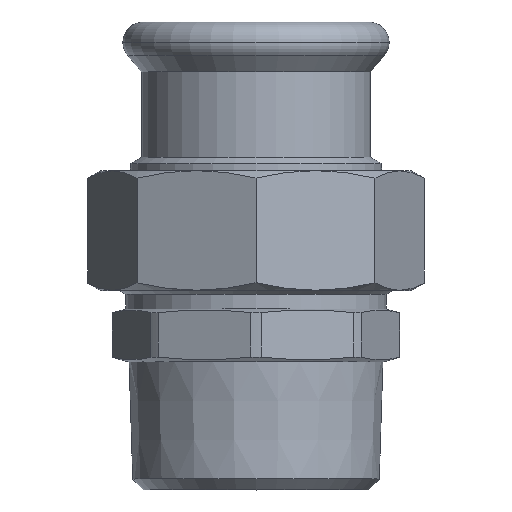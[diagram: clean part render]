
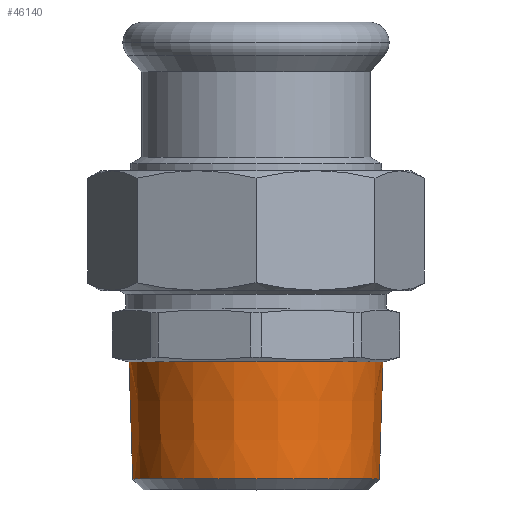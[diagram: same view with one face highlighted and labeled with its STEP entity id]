
A CAD part, top view. The second image highlights one B-rep face of the part: STEP entity #46140.
In plain terms, the highlighted conical face has half-angle 1.79 degrees and reference radius 21.227 mm.
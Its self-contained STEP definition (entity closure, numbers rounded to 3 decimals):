
#45430=CARTESIAN_POINT('',(150.361,5.819,
0.));
#45440=VERTEX_POINT('',#45430);
#45690=CARTESIAN_POINT('',(192.815,5.819,0.));
#45700=VERTEX_POINT('',#45690);
#45730=CARTESIAN_POINT('',(171.588,5.819,0.));
#45740=DIRECTION('',(0.,1.,0.));
#45750=DIRECTION('',(1.,0.,0.));
#45760=AXIS2_PLACEMENT_3D('',#45730,#45740,#45750);
#45770=CIRCLE('',#45760,21.227);
#45780=EDGE_CURVE('',#45440,#45700,#45770,.T.);
#45830=CARTESIAN_POINT('',(171.588,5.819,0.));
#45840=DIRECTION('',(0.,1.,0.));
#45850=DIRECTION('',(1.,0.,0.));
#45860=AXIS2_PLACEMENT_3D('',#45830,#45840,#45850);
#45870=CONICAL_SURFACE('',#45860,21.227,0.031);
#45880=CARTESIAN_POINT('',(150.361,5.819,
0.));
#45890=DIRECTION('',(-0.031,1.,
0.));
#45900=VECTOR('',#45890,1.);
#45910=LINE('',#45880,#45900);
#45920=CARTESIAN_POINT('',(150.974,-13.779,
0.));
#45930=VERTEX_POINT('',#45920);
#45940=EDGE_CURVE('',#45930,#45440,#45910,.T.);
#45950=ORIENTED_EDGE('',*,*,#45940,.F.);
#45960=ORIENTED_EDGE('',*,*,#45780,.F.);
#45970=CARTESIAN_POINT('',(192.815,5.819,0.));
#45980=DIRECTION('',(0.031,1.,0.));
#45990=VECTOR('',#45980,1.);
#46000=LINE('',#45970,#45990);
#46010=CARTESIAN_POINT('',(192.202,-13.779,0.));
#46020=VERTEX_POINT('',#46010);
#46030=EDGE_CURVE('',#46020,#45700,#46000,.T.);
#46040=ORIENTED_EDGE('',*,*,#46030,.T.);
#46050=CARTESIAN_POINT('',(171.588,-13.779,0.));
#46060=DIRECTION('',(0.,1.,0.));
#46070=DIRECTION('',(1.,0.,0.));
#46080=AXIS2_PLACEMENT_3D('',#46050,#46060,#46070);
#46090=CIRCLE('',#46080,20.614);
#46100=EDGE_CURVE('',#45930,#46020,#46090,.T.);
#46110=ORIENTED_EDGE('',*,*,#46100,.T.);
#46120=EDGE_LOOP('',(#46110,#46040,#45960,#45950));
#46130=FACE_OUTER_BOUND('',#46120,.T.);
#46140=ADVANCED_FACE('',(#46130),#45870,.T.);
